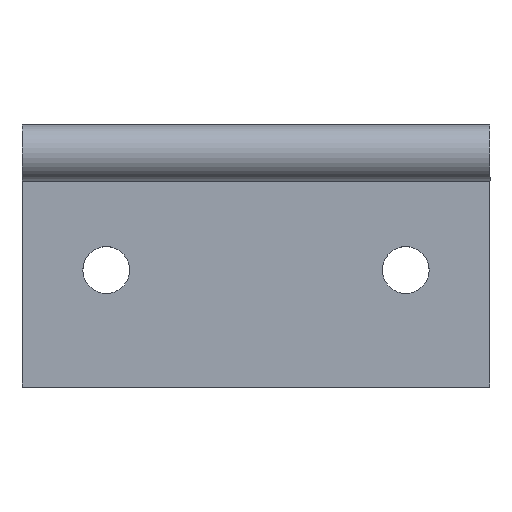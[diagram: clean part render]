
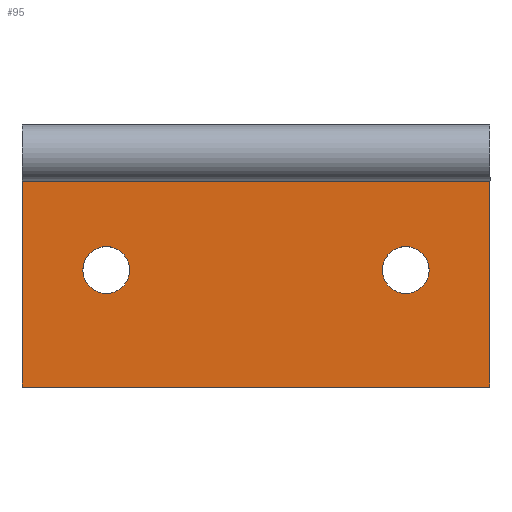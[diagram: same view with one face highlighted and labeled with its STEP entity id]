
A CAD part, top view. The second image highlights one B-rep face of the part: STEP entity #95.
In plain terms, the highlighted planar face has unit normal (0, 0, 1).
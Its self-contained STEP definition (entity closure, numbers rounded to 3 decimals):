
#12 = VECTOR ( 'NONE', #99, 1000. ) ;
#13 = EDGE_CURVE ( 'NONE', #88, #55, #90, .T. ) ;
#14 = CARTESIAN_POINT ( 'NONE',  ( -25., 9.5, 3. ) ) ;
#16 = CARTESIAN_POINT ( 'NONE',  ( 25., 9.5, 3. ) ) ;
#26 = CARTESIAN_POINT ( 'NONE',  ( 25., 12.5, 3. ) ) ;
#38 = DIRECTION ( 'NONE',  ( 1., 0., 0. ) ) ;
#44 = DIRECTION ( 'NONE',  ( 1., 0., 0. ) ) ;
#46 = DIRECTION ( 'NONE',  ( 1., 0., 0. ) ) ;
#50 = LINE ( 'NONE', #235, #239 ) ;
#55 = VERTEX_POINT ( 'NONE', #14 ) ;
#62 = EDGE_CURVE ( 'NONE', #213, #213, #159, .T. ) ;
#77 = DIRECTION ( 'NONE',  ( 1., 0., 0. ) ) ;
#85 = EDGE_CURVE ( 'NONE', #55, #294, #116, .T. ) ;
#88 = VERTEX_POINT ( 'NONE', #277 ) ;
#90 = LINE ( 'NONE', #16, #247 ) ;
#92 = ORIENTED_EDGE ( 'NONE', *, *, #214, .T. ) ;
#94 = FACE_OUTER_BOUND ( 'NONE', #293, .T. ) ;
#95 = ADVANCED_FACE ( 'NONE', ( #119, #207, #94 ), #275, .T. ) ;
#99 = DIRECTION ( 'NONE',  ( 0., 1., 0. ) ) ;
#110 = AXIS2_PLACEMENT_3D ( 'NONE', #280, #263, #46 ) ;
#113 = DIRECTION ( 'NONE',  ( 0., 0., 1. ) ) ;
#115 = DIRECTION ( 'NONE',  ( -1., 0., 0. ) ) ;
#116 = LINE ( 'NONE', #182, #240 ) ;
#118 = EDGE_CURVE ( 'NONE', #294, #287, #50, .T. ) ;
#119 = FACE_BOUND ( 'NONE', #252, .T. ) ;
#122 = AXIS2_PLACEMENT_3D ( 'NONE', #183, #278, #44 ) ;
#147 = ORIENTED_EDGE ( 'NONE', *, *, #62, .F. ) ;
#149 = ORIENTED_EDGE ( 'NONE', *, *, #13, .T. ) ;
#159 = CIRCLE ( 'NONE', #279, 2.5 ) ;
#163 = LINE ( 'NONE', #26, #12 ) ;
#178 = EDGE_CURVE ( 'NONE', #215, #215, #281, .T. ) ;
#180 = DIRECTION ( 'NONE',  ( 0., -1., 0. ) ) ;
#182 = CARTESIAN_POINT ( 'NONE',  ( -25., 12.5, 3. ) ) ;
#183 = CARTESIAN_POINT ( 'NONE',  ( 0., 0., 3. ) ) ;
#188 = CARTESIAN_POINT ( 'NONE',  ( -25., -12.5, 3. ) ) ;
#190 = CARTESIAN_POINT ( 'NONE',  ( -13.5, 0., 3. ) ) ;
#194 = ORIENTED_EDGE ( 'NONE', *, *, #178, .F. ) ;
#207 = FACE_BOUND ( 'NONE', #241, .T. ) ;
#213 = VERTEX_POINT ( 'NONE', #305 ) ;
#214 = EDGE_CURVE ( 'NONE', #287, #88, #163, .T. ) ;
#215 = VERTEX_POINT ( 'NONE', #190 ) ;
#222 = ORIENTED_EDGE ( 'NONE', *, *, #118, .T. ) ;
#235 = CARTESIAN_POINT ( 'NONE',  ( -25., -12.5, 3. ) ) ;
#236 = CARTESIAN_POINT ( 'NONE',  ( 25., -12.5, 3. ) ) ;
#239 = VECTOR ( 'NONE', #77, 1000. ) ;
#240 = VECTOR ( 'NONE', #180, 1000. ) ;
#241 = EDGE_LOOP ( 'NONE', ( #147 ) ) ;
#247 = VECTOR ( 'NONE', #115, 1000. ) ;
#252 = EDGE_LOOP ( 'NONE', ( #194 ) ) ;
#263 = DIRECTION ( 'NONE',  ( 0., 0., 1. ) ) ;
#275 = PLANE ( 'NONE',  #122 ) ;
#276 = CARTESIAN_POINT ( 'NONE',  ( 16., 0., 3. ) ) ;
#277 = CARTESIAN_POINT ( 'NONE',  ( 25., 9.5, 3. ) ) ;
#278 = DIRECTION ( 'NONE',  ( 0., 0., 1. ) ) ;
#279 = AXIS2_PLACEMENT_3D ( 'NONE', #276, #113, #38 ) ;
#280 = CARTESIAN_POINT ( 'NONE',  ( -16., 0., 3. ) ) ;
#281 = CIRCLE ( 'NONE', #110, 2.5 ) ;
#287 = VERTEX_POINT ( 'NONE', #236 ) ;
#293 = EDGE_LOOP ( 'NONE', ( #92, #149, #296, #222 ) ) ;
#294 = VERTEX_POINT ( 'NONE', #188 ) ;
#296 = ORIENTED_EDGE ( 'NONE', *, *, #85, .T. ) ;
#305 = CARTESIAN_POINT ( 'NONE',  ( 18.5, 0., 3. ) ) ;
